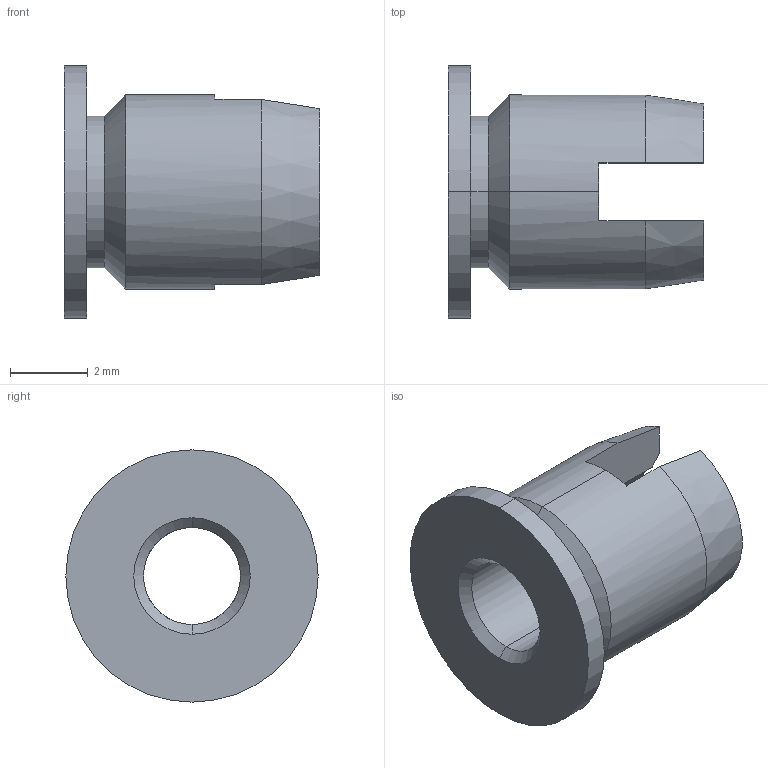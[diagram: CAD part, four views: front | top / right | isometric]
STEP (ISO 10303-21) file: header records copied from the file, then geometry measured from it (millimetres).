
FILE_DESCRIPTION (( 'STEP AP203' ), '1' );
FILE_NAME ('FSUK-SCRH-M03.STEP', '2021-06-16T12:09:57', ( '' ), ( '' ), 'SwSTEP 2.0', 'SolidWorks 2021', '' );
FILE_SCHEMA (( 'CONFIG_CONTROL_DESIGN' ));
Length unit declared in the file: millimetre
Products named in the file (1): FSUK-SCRH-M03
Bounding box: 6.58 x 6.5 x 6.5 mm (x, y, z)
Volume: 86.2 mm3; surface area: 214.7 mm2
Topology: 1 solids, 1 shells, 26 faces, 66 edges, 42 vertices
Faces by surface type: plane 10, cone 8, cylinder 8
Entity records: 881 total; most frequent: CARTESIAN_POINT 159, DIRECTION 142, ORIENTED_EDGE 132, EDGE_CURVE 66, AXIS2_PLACEMENT_3D 57, VERTEX_POINT 42, CIRCLE 30, LINE 28
